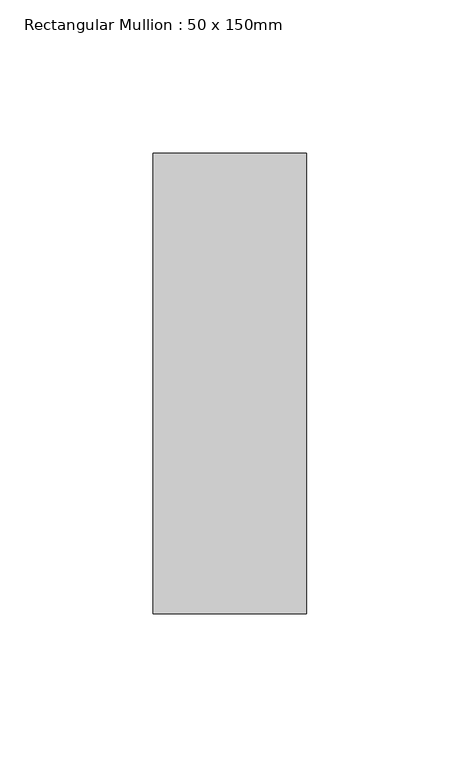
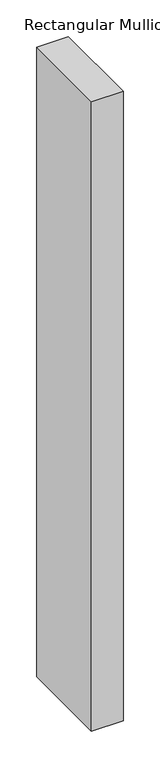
"""IFC4 building model written with IfcOpenShell, lengths in millimetres: member geometry, Rectangular Mullion : 50 x 150mm."""

from ifc_helpers import new_model, si_unit, frame, origin, place, context, project, spatial, polyline, outline, extrude, source, transform, mapped, element, save


def rectangular_mullion_50_x_150mm_bfd45d55(model_context):
    return source(origin(), model_context, "Body", "SweptSolid", [
        extrude(outline(polyline([(0.0, 75.0), (0.0, -75.0), (-50.0, -75.0), (-50.0, 75.0), (0.0, 75.0)])), frame((0.0, 0.0, -1050.7045118), z_axis=(0.0, 0.0, 1.0), x_axis=(1.0, 0.0, 0.0)), (0.0, 0.0, 1.0), 1050.7045118),
    ])


if __name__ == "__main__":
    model = new_model("IFC4")
    model_context = context("Model", 3, world=origin())
    ifc_project = project(units=[si_unit("LENGTHUNIT", "METRE", prefix="MILLI")], contexts=[model_context])
    site = spatial("IfcSite", under=ifc_project)
    building = spatial("IfcBuilding", under=site)
    placement = place(None, origin())
    rectangular_mullion_50_x_150mm_shape = rectangular_mullion_50_x_150mm_bfd45d55(model_context)
    element("IfcMember", 1, ObjectType="Rectangular Mullion : 50 x 150mm", at=placement, inside=building, context=model_context, shape_type="MappedRepresentation", body=[
        mapped(rectangular_mullion_50_x_150mm_shape, transform((0.0, 0.0, 0.0), x_axis=(1.0, 0.0, 0.0), y_axis=(0.0, 1.0, 0.0), z_axis=(0.0, 0.0, 1.0))),
    ])
    save(model, "model.ifc")
